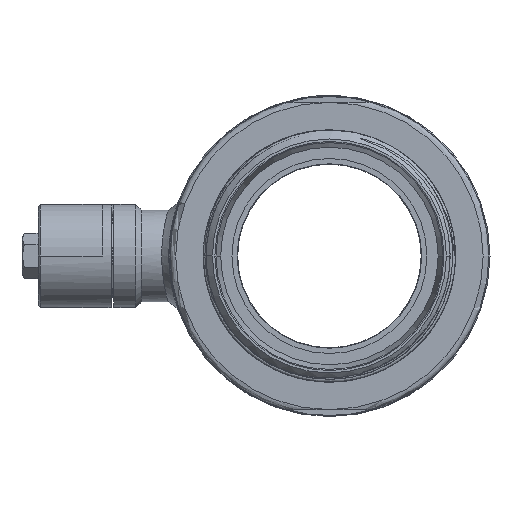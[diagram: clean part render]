
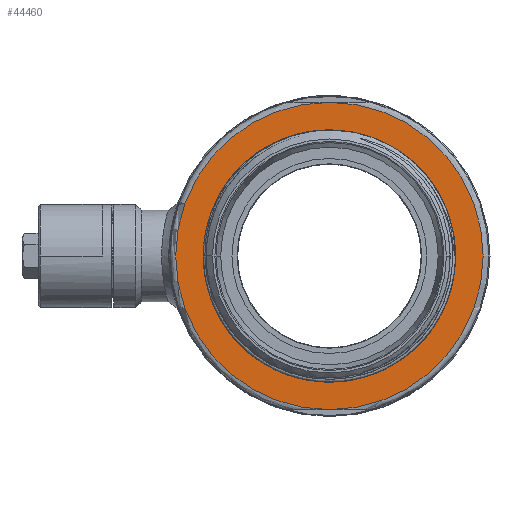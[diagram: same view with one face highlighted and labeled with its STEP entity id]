
A CAD part, left-side view. The second image highlights one B-rep face of the part: STEP entity #44460.
In plain terms, the highlighted planar face has unit normal (-1, 0, 0).
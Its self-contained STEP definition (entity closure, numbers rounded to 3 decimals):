
#9247=CARTESIAN_POINT('',(-65.,55.,0.));
#11251=CARTESIAN_POINT('',(-65.,0.,0.));
#11252=DIRECTION('',(-1.,0.,0.));
#11253=DIRECTION('',(0.,-1.,0.));
#11254=AXIS2_PLACEMENT_3D('',#11251,#11252,#11253);
#11259=CARTESIAN_POINT('',(-65.,0.,0.));
#11260=DIRECTION('',(1.,0.,0.));
#11261=DIRECTION('',(0.,-1.,0.));
#11262=AXIS2_PLACEMENT_3D('',#11259,#11260,#11261);
#11267=CARTESIAN_POINT('',(-65.,0.,0.));
#11268=DIRECTION('',(-1.,0.,0.));
#11269=DIRECTION('',(0.,0.,-1.));
#11270=AXIS2_PLACEMENT_3D('',#11267,#11268,#11269);
#11313=CARTESIAN_POINT('',(-65.,0.,
67.));
#11387=CARTESIAN_POINT('',(-65.,0.,0.));
#11388=DIRECTION('',(-1.,0.,0.));
#11389=DIRECTION('',(0.,0.,1.));
#11390=AXIS2_PLACEMENT_3D('',#11387,#11388,#11389);
#11525=CARTESIAN_POINT('',(-65.,0.,
-67.));
#35496=VERTEX_POINT('',#11525);
#35499=VERTEX_POINT('',#11313);
#35521=VERTEX_POINT('',#9247);
#35546=CARTESIAN_POINT('',(-65.,-55.,0.));
#35547=VERTEX_POINT('',#35546);
#44445=CARTESIAN_POINT('',(-65.,0.,0.));
#44446=DIRECTION('',(-1.,0.,0.));
#44447=DIRECTION('',(0.,1.,0.));
#44448=AXIS2_PLACEMENT_3D('',#44445,#44446,#44447);
#44449=PLANE('',#44448);
#44451=ORIENTED_EDGE('',*,*,#44450,.F.);
#44453=ORIENTED_EDGE('',*,*,#44452,.F.);
#44454=EDGE_LOOP('',(#44451,#44453));
#44455=FACE_OUTER_BOUND('',#44454,.F.);
#44456=ORIENTED_EDGE('',*,*,#42427,.T.);
#44457=ORIENTED_EDGE('',*,*,#44440,.F.);
#44458=EDGE_LOOP('',(#44456,#44457));
#44459=FACE_BOUND('',#44458,.F.);
#44460=ADVANCED_FACE('',(#44455,#44459),#44449,.T.);
#11255=CIRCLE('',#11254,55.);
#11263=CIRCLE('',#11262,55.);
#11271=CIRCLE('',#11270,67.);
#11391=CIRCLE('',#11390,67.);
#42427=EDGE_CURVE('',#35547,#35521,#11255,.T.);
#44440=EDGE_CURVE('',#35547,#35521,#11263,.T.);
#44450=EDGE_CURVE('',#35496,#35499,#11271,.T.);
#44452=EDGE_CURVE('',#35499,#35496,#11391,.T.);
